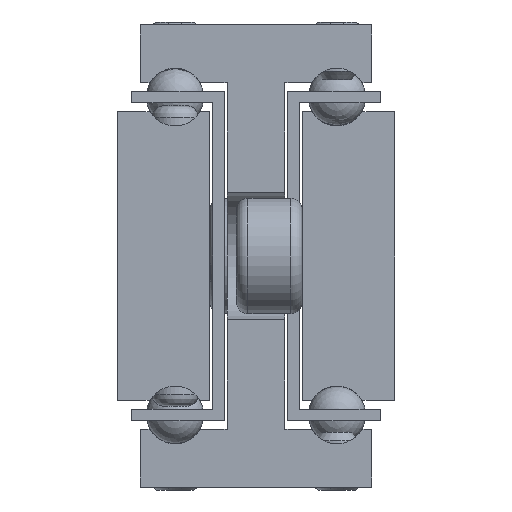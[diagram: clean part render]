
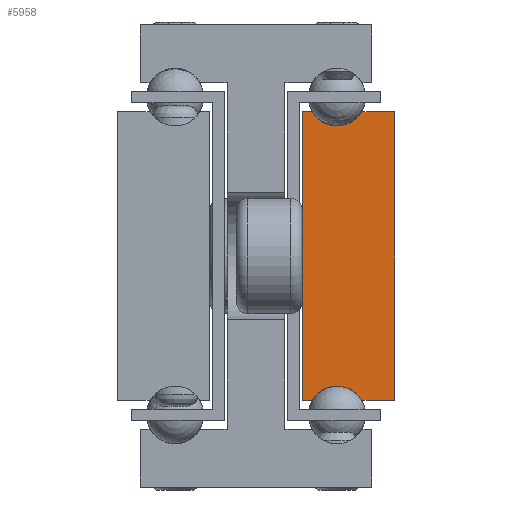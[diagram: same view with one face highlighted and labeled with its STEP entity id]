
A CAD part, front view. The second image highlights one B-rep face of the part: STEP entity #5958.
In plain terms, the highlighted planar face has unit normal (0, -1, 0).
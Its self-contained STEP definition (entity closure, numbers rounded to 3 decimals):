
#546=CIRCLE('',#6345,2.5);
#548=CIRCLE('',#6351,2.5);
#846=FACE_OUTER_BOUND('',#1232,.T.);
#1232=EDGE_LOOP('',(#4728,#4729,#4730,#4731,#4732,#4733,#4734,#4735));
#1694=LINE('',#41058,#2192);
#1698=LINE('',#41066,#2196);
#1702=LINE('',#41078,#2200);
#1705=LINE('',#41084,#2203);
#1708=LINE('',#41090,#2206);
#1712=LINE('',#41101,#2210);
#2192=VECTOR('',#7088,1.);
#2196=VECTOR('',#7094,1.);
#2200=VECTOR('',#7106,1.);
#2203=VECTOR('',#7111,1.);
#2206=VECTOR('',#7116,1.);
#2210=VECTOR('',#7128,1.);
#2778=VERTEX_POINT('',#41056);
#2779=VERTEX_POINT('',#41057);
#2782=VERTEX_POINT('',#41065);
#2784=VERTEX_POINT('',#41071);
#2786=VERTEX_POINT('',#41077);
#2788=VERTEX_POINT('',#41083);
#2790=VERTEX_POINT('',#41089);
#2792=VERTEX_POINT('',#41095);
#3496=EDGE_CURVE('',#2778,#2779,#1694,.T.);
#3500=EDGE_CURVE('',#2779,#2782,#1698,.T.);
#3503=EDGE_CURVE('',#2782,#2784,#546,.T.);
#3506=EDGE_CURVE('',#2784,#2786,#1702,.T.);
#3509=EDGE_CURVE('',#2786,#2788,#1705,.T.);
#3512=EDGE_CURVE('',#2788,#2790,#1708,.T.);
#3515=EDGE_CURVE('',#2790,#2792,#548,.T.);
#3518=EDGE_CURVE('',#2792,#2778,#1712,.T.);
#4728=ORIENTED_EDGE('',*,*,#3518,.T.);
#4729=ORIENTED_EDGE('',*,*,#3496,.T.);
#4730=ORIENTED_EDGE('',*,*,#3500,.T.);
#4731=ORIENTED_EDGE('',*,*,#3503,.T.);
#4732=ORIENTED_EDGE('',*,*,#3506,.T.);
#4733=ORIENTED_EDGE('',*,*,#3509,.T.);
#4734=ORIENTED_EDGE('',*,*,#3512,.T.);
#4735=ORIENTED_EDGE('',*,*,#3515,.T.);
#5666=PLANE('',#6354);
#5958=ADVANCED_FACE('',(#846),#5666,.F.);
#6345=AXIS2_PLACEMENT_3D('',#41072,#7099,#7100);
#6351=AXIS2_PLACEMENT_3D('',#41096,#7121,#7122);
#6354=AXIS2_PLACEMENT_3D('',#41103,#7130,#7131);
#7088=DIRECTION('',(0.,0.,1.));
#7094=DIRECTION('',(-1.,0.,0.));
#7099=DIRECTION('center_axis',(0.,1.,0.));
#7100=DIRECTION('ref_axis',(0.866,0.,-0.5));
#7106=DIRECTION('',(-1.,0.,0.));
#7111=DIRECTION('',(0.,0.,-1.));
#7116=DIRECTION('',(1.,0.,0.));
#7121=DIRECTION('center_axis',(0.,1.,0.));
#7122=DIRECTION('ref_axis',(-0.866,0.,0.5));
#7128=DIRECTION('',(1.,0.,0.));
#7130=DIRECTION('center_axis',(0.,1.,0.));
#7131=DIRECTION('ref_axis',(-1.,0.,0.));
#41056=CARTESIAN_POINT('',(2508.313,1320.751,137.5));
#41057=CARTESIAN_POINT('',(2508.313,1320.751,162.5));
#41058=CARTESIAN_POINT('',(2508.313,1320.751,137.5));
#41065=CARTESIAN_POINT('',(2505.478,1320.751,162.5));
#41066=CARTESIAN_POINT('',(2508.313,1320.751,162.5));
#41071=CARTESIAN_POINT('',(2501.148,1320.751,162.5));
#41072=CARTESIAN_POINT('Origin',(2503.313,1320.751,163.75));
#41077=CARTESIAN_POINT('',(2500.313,1320.751,162.5));
#41078=CARTESIAN_POINT('',(2501.148,1320.751,162.5));
#41083=CARTESIAN_POINT('',(2500.313,1320.751,137.5));
#41084=CARTESIAN_POINT('',(2500.313,1320.751,162.5));
#41089=CARTESIAN_POINT('',(2501.148,1320.751,137.5));
#41090=CARTESIAN_POINT('',(2500.313,1320.751,137.5));
#41095=CARTESIAN_POINT('',(2505.478,1320.751,137.5));
#41096=CARTESIAN_POINT('Origin',(2503.313,1320.751,136.25));
#41101=CARTESIAN_POINT('',(2505.478,1320.751,137.5));
#41103=CARTESIAN_POINT('Origin',(2504.326,1320.751,150.));
